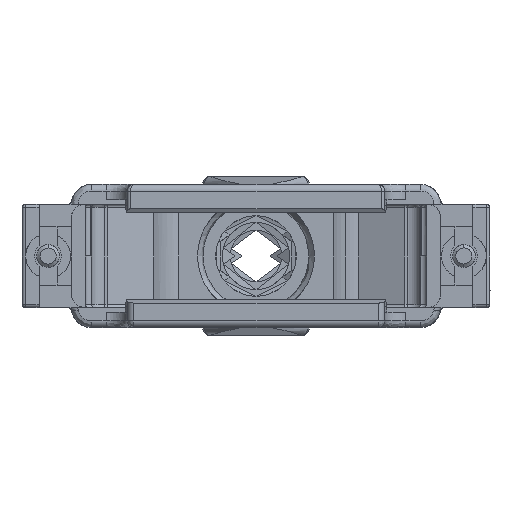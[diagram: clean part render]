
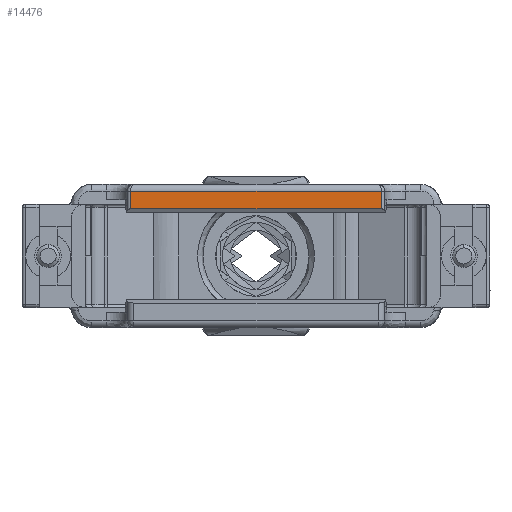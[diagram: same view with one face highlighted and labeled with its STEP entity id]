
A CAD part, front view. The second image highlights one B-rep face of the part: STEP entity #14476.
In plain terms, the highlighted planar face has unit normal (0, -1, 0).
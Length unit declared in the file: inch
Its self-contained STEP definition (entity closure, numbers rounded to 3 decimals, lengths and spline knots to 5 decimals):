
#2674 = AXIS2_PLACEMENT_3D ( 'NONE', #9789, #36491, #13633 ) ;
#3115 = FACE_OUTER_BOUND ( 'NONE', #39829, .T. ) ;
#3515 = EDGE_CURVE ( 'NONE', #5180, #27343, #19255, .T. ) ;
#4921 = VECTOR ( 'NONE', #18366, 39.37008 ) ;
#5180 = VERTEX_POINT ( 'NONE', #47867 ) ;
#5229 = EDGE_CURVE ( 'NONE', #27343, #41296, #26713, .T. ) ;
#6055 = DIRECTION ( 'NONE',  ( 0., 0., 1. ) ) ;
#7961 = DIRECTION ( 'NONE',  ( 1., 0., 0. ) ) ;
#9345 = ORIENTED_EDGE ( 'NONE', *, *, #21039, .T. ) ;
#9789 = CARTESIAN_POINT ( 'NONE',  ( -1.12, 0., 0. ) ) ;
#12635 = CARTESIAN_POINT ( 'NONE',  ( 0., 0., 0. ) ) ;
#13633 = DIRECTION ( 'NONE',  ( 0., 0., -1. ) ) ;
#14476 = ADVANCED_FACE ( 'NONE', ( #3115 ), #32637, .T. ) ;
#16068 = CARTESIAN_POINT ( 'NONE',  ( -1.12, 0., 0. ) ) ;
#16823 = VECTOR ( 'NONE', #25619, 39.37008 ) ;
#18366 = DIRECTION ( 'NONE',  ( -1., 0., 0. ) ) ;
#19255 = LINE ( 'NONE', #30959, #29402 ) ;
#20105 = ORIENTED_EDGE ( 'NONE', *, *, #20106, .T. ) ;
#20106 = EDGE_CURVE ( 'NONE', #41296, #38504, #25212, .T. ) ;
#21039 = EDGE_CURVE ( 'NONE', #38504, #5180, #35906, .T. ) ;
#21853 = ORIENTED_EDGE ( 'NONE', *, *, #3515, .T. ) ;
#25212 = LINE ( 'NONE', #37404, #4921 ) ;
#25619 = DIRECTION ( 'NONE',  ( 0., 0., -1. ) ) ;
#26713 = LINE ( 'NONE', #36622, #45855 ) ;
#27343 = VERTEX_POINT ( 'NONE', #47146 ) ;
#29402 = VECTOR ( 'NONE', #7961, 39.37008 ) ;
#30187 = ORIENTED_EDGE ( 'NONE', *, *, #5229, .T. ) ;
#30959 = CARTESIAN_POINT ( 'NONE',  ( -0.56, 0., -0.08 ) ) ;
#32637 = PLANE ( 'NONE',  #2674 ) ;
#35906 = LINE ( 'NONE', #48533, #16823 ) ;
#36491 = DIRECTION ( 'NONE',  ( 0., -1., 0. ) ) ;
#36622 = CARTESIAN_POINT ( 'NONE',  ( 0., 0., -0.04 ) ) ;
#37404 = CARTESIAN_POINT ( 'NONE',  ( -0.56, 0., 0. ) ) ;
#38504 = VERTEX_POINT ( 'NONE', #16068 ) ;
#39829 = EDGE_LOOP ( 'NONE', ( #30187, #20105, #9345, #21853 ) ) ;
#41296 = VERTEX_POINT ( 'NONE', #12635 ) ;
#45855 = VECTOR ( 'NONE', #6055, 39.37008 ) ;
#47146 = CARTESIAN_POINT ( 'NONE',  ( 0., 0., -0.08 ) ) ;
#47867 = CARTESIAN_POINT ( 'NONE',  ( -1.12, 0., -0.08 ) ) ;
#48533 = CARTESIAN_POINT ( 'NONE',  ( -1.12, 0., -0.04 ) ) ;
